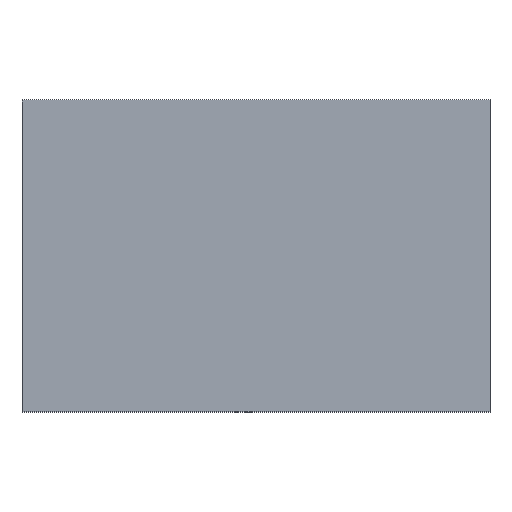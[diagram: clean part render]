
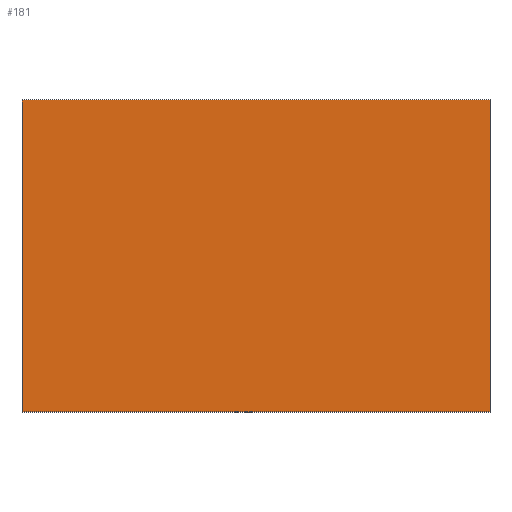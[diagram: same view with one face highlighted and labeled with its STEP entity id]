
A CAD part, top view. The second image highlights one B-rep face of the part: STEP entity #181.
In plain terms, the highlighted planar face has unit normal (0, 0, 1).
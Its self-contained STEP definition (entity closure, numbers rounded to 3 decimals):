
#52 = VERTEX_POINT('',#53);
#53 = CARTESIAN_POINT('',(0.,0.,1.123));
#59 = EDGE_CURVE('',#52,#60,#62,.T.);
#60 = VERTEX_POINT('',#61);
#61 = CARTESIAN_POINT('',(0.,60.,1.123));
#62 = LINE('',#63,#64);
#63 = CARTESIAN_POINT('',(0.,0.,1.123));
#64 = VECTOR('',#65,1.);
#65 = DIRECTION('',(0.,1.,0.));
#90 = EDGE_CURVE('',#60,#91,#93,.T.);
#91 = VERTEX_POINT('',#92);
#92 = CARTESIAN_POINT('',(90.,60.,1.123));
#93 = LINE('',#94,#95);
#94 = CARTESIAN_POINT('',(0.,60.,1.123));
#95 = VECTOR('',#96,1.);
#96 = DIRECTION('',(1.,0.,0.));
#121 = EDGE_CURVE('',#91,#122,#124,.T.);
#122 = VERTEX_POINT('',#123);
#123 = CARTESIAN_POINT('',(90.,0.,1.123));
#124 = LINE('',#125,#126);
#125 = CARTESIAN_POINT('',(90.,60.,1.123));
#126 = VECTOR('',#127,1.);
#127 = DIRECTION('',(0.,-1.,0.));
#152 = EDGE_CURVE('',#122,#52,#153,.T.);
#153 = LINE('',#154,#155);
#154 = CARTESIAN_POINT('',(90.,0.,1.123));
#155 = VECTOR('',#156,1.);
#156 = DIRECTION('',(-1.,0.,0.));
#181 = ADVANCED_FACE('',(#182),#188,.F.);
#182 = FACE_BOUND('',#183,.F.);
#183 = EDGE_LOOP('',(#184,#185,#186,#187));
#184 = ORIENTED_EDGE('',*,*,#59,.T.);
#185 = ORIENTED_EDGE('',*,*,#90,.T.);
#186 = ORIENTED_EDGE('',*,*,#121,.T.);
#187 = ORIENTED_EDGE('',*,*,#152,.T.);
#188 = PLANE('',#189);
#189 = AXIS2_PLACEMENT_3D('',#190,#191,#192);
#190 = CARTESIAN_POINT('',(45.,30.,1.123));
#191 = DIRECTION('',(-0.,-0.,-1.));
#192 = DIRECTION('',(-1.,0.,0.));
